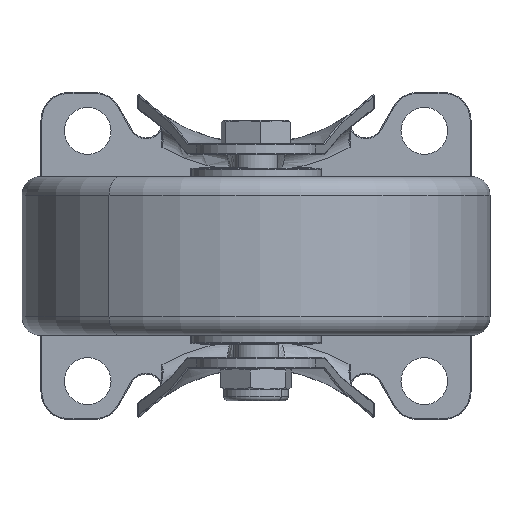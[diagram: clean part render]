
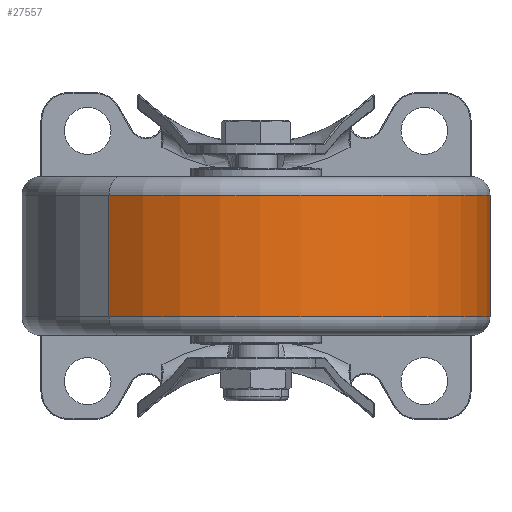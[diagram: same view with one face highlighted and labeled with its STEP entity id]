
A CAD part, front view. The second image highlights one B-rep face of the part: STEP entity #27557.
In plain terms, the highlighted cylindrical face has radius 50.054 mm (diameter 100.109 mm), a partial arc.
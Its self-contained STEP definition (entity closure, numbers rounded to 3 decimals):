
#938 = EDGE_CURVE ( 'NONE', #18983, #27015, #20884, .T. ) ;
#1280 = CARTESIAN_POINT ( 'NONE',  ( -21.845, 0., -50.054 ) ) ;
#1642 = VERTEX_POINT ( 'NONE', #26665 ) ;
#2679 = CARTESIAN_POINT ( 'NONE',  ( 12.649, 0., 0. ) ) ;
#2812 = DIRECTION ( 'NONE',  ( 0., 0., 1. ) ) ;
#3818 = ORIENTED_EDGE ( 'NONE', *, *, #26198, .F. ) ;
#4863 = AXIS2_PLACEMENT_3D ( 'NONE', #10141, #20599, #14167 ) ;
#5357 = VECTOR ( 'NONE', #15137, 1000. ) ;
#6253 = CARTESIAN_POINT ( 'NONE',  ( -21.845, 0., 50.054 ) ) ;
#6357 = VERTEX_POINT ( 'NONE', #18172 ) ;
#6662 = ORIENTED_EDGE ( 'NONE', *, *, #938, .T. ) ;
#7052 = DIRECTION ( 'NONE',  ( -1., 0., 0. ) ) ;
#7288 = LINE ( 'NONE', #1280, #10721 ) ;
#7616 = AXIS2_PLACEMENT_3D ( 'NONE', #2679, #20137, #2812 ) ;
#10141 = CARTESIAN_POINT ( 'NONE',  ( -13.351, 0., 0. ) ) ;
#10721 = VECTOR ( 'NONE', #26939, 1000. ) ;
#12180 = LINE ( 'NONE', #6253, #5357 ) ;
#13169 = ORIENTED_EDGE ( 'NONE', *, *, #28121, .T. ) ;
#13931 = DIRECTION ( 'NONE',  ( 0., 0., 1. ) ) ;
#14040 = AXIS2_PLACEMENT_3D ( 'NONE', #24547, #7052, #13931 ) ;
#14167 = DIRECTION ( 'NONE',  ( 0., 0., 1. ) ) ;
#15137 = DIRECTION ( 'NONE',  ( -1., 0., 0. ) ) ;
#15521 = EDGE_LOOP ( 'NONE', ( #19012, #6662, #13169, #3818 ) ) ;
#16075 = FACE_OUTER_BOUND ( 'NONE', #15521, .T. ) ;
#18172 = CARTESIAN_POINT ( 'NONE',  ( -13.351, 0., 50.054 ) ) ;
#18374 = CYLINDRICAL_SURFACE ( 'NONE', #14040, 50.054 ) ;
#18449 = EDGE_CURVE ( 'NONE', #18983, #1642, #7288, .T. ) ;
#18612 = CIRCLE ( 'NONE', #4863, 50.054 ) ;
#18983 = VERTEX_POINT ( 'NONE', #21876 ) ;
#19012 = ORIENTED_EDGE ( 'NONE', *, *, #18449, .F. ) ;
#20137 = DIRECTION ( 'NONE',  ( -1., 0., 0. ) ) ;
#20599 = DIRECTION ( 'NONE',  ( -1., 0., 0. ) ) ;
#20884 = CIRCLE ( 'NONE', #7616, 50.054 ) ;
#21876 = CARTESIAN_POINT ( 'NONE',  ( 12.649, 0., -50.054 ) ) ;
#24547 = CARTESIAN_POINT ( 'NONE',  ( -21.845, 0., 0. ) ) ;
#26198 = EDGE_CURVE ( 'NONE', #1642, #6357, #18612, .T. ) ;
#26665 = CARTESIAN_POINT ( 'NONE',  ( -13.351, 0., -50.054 ) ) ;
#26939 = DIRECTION ( 'NONE',  ( -1., 0., 0. ) ) ;
#27015 = VERTEX_POINT ( 'NONE', #27584 ) ;
#27557 = ADVANCED_FACE ( 'NONE', ( #16075 ), #18374, .T. ) ;
#27584 = CARTESIAN_POINT ( 'NONE',  ( 12.649, 0., 50.054 ) ) ;
#28121 = EDGE_CURVE ( 'NONE', #27015, #6357, #12180, .T. ) ;
